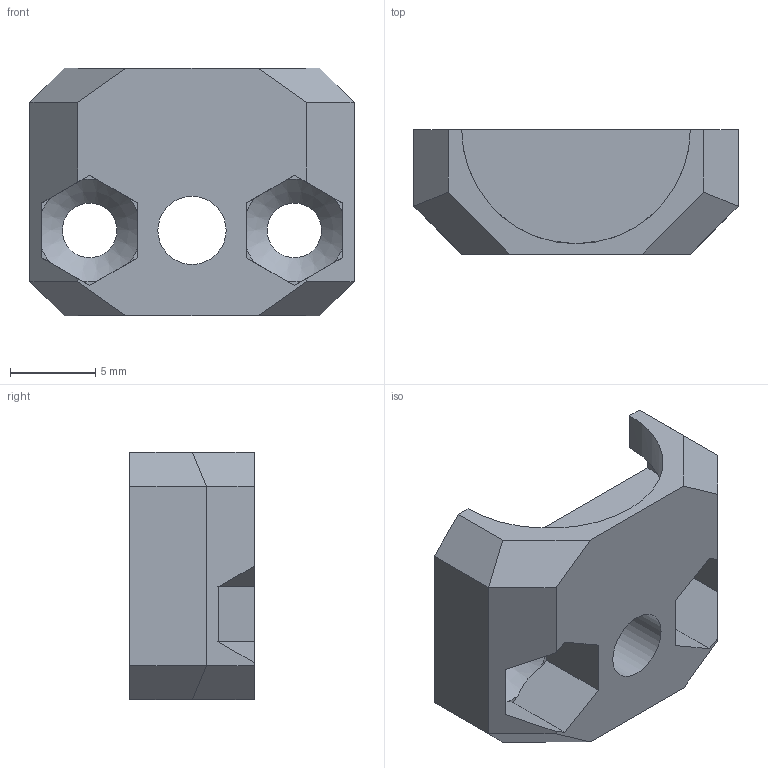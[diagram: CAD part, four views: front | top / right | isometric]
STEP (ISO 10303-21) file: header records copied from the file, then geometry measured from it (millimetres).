
FILE_DESCRIPTION(/* description */ (''),/* implementation_level */ '2;1');
FILE_NAME(/* name */ '4-49-2 Shock top two.step',/* time_stamp */ '2025-05-10T22:21:19+02:00',/* author */ (''),/* organization */ (''),/* preprocessor_version */ 'ST-DEVELOPER v20.1',/* originating_system */ 'Autodesk Translation Framework v14.4.0.0',/* authorisation */ '');
FILE_SCHEMA (('AUTOMOTIVE_DESIGN { 1 0 10303 214 3 1 1 }'));
Length unit declared in the file: millimetre
Products named in the file (1): 4-49-2 Shock top two
Bounding box: 19 x 7.3 x 14.5 mm (x, y, z)
Volume: 1025.6 mm3; surface area: 1233.7 mm2
Topology: 1 solids, 1 shells, 56 faces, 158 edges, 103 vertices
Faces by surface type: plane 46, cylinder 7, cone 3
Full cylindrical faces by diameter (mm): 3.2 x2, 4 x1, 7.2 x1
Entity records: 1833 total; most frequent: CARTESIAN_POINT 346, ORIENTED_EDGE 316, DIRECTION 287, EDGE_CURVE 158, LINE 115, VECTOR 115, VERTEX_POINT 103, AXIS2_PLACEMENT_3D 86
